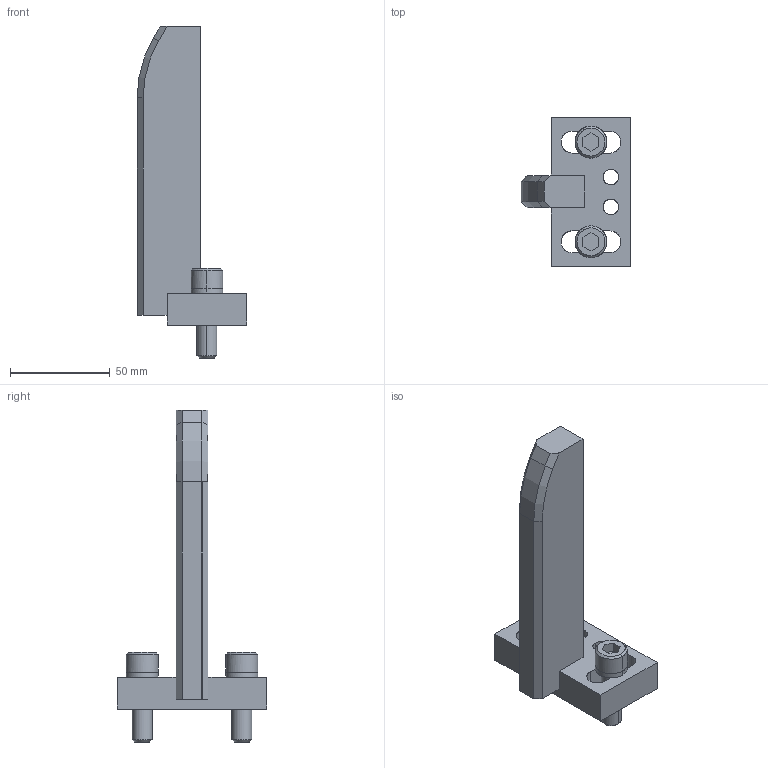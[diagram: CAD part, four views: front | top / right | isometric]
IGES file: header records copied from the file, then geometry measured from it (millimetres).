
Global section: file name: E:\UnigraphicsGraphicData\MISUMI_PRESS-PARTS\IGES\3d_ngna-150-20-m10_01513_r00.igs; native system: NX V5.0; preprocessor: UGS NX IGES V5.0; author: MISUMI; date: 20110105.162042; units: millimetre
Bounding box: 55 x 75 x 166.5 mm (x, y, z)
Surface area: 31212.7 mm2 (no closed solid volume)
Topology: 0 solids, 0 shells, 104 faces, 665 edges, 665 vertices
Faces by surface type: bspline 104
